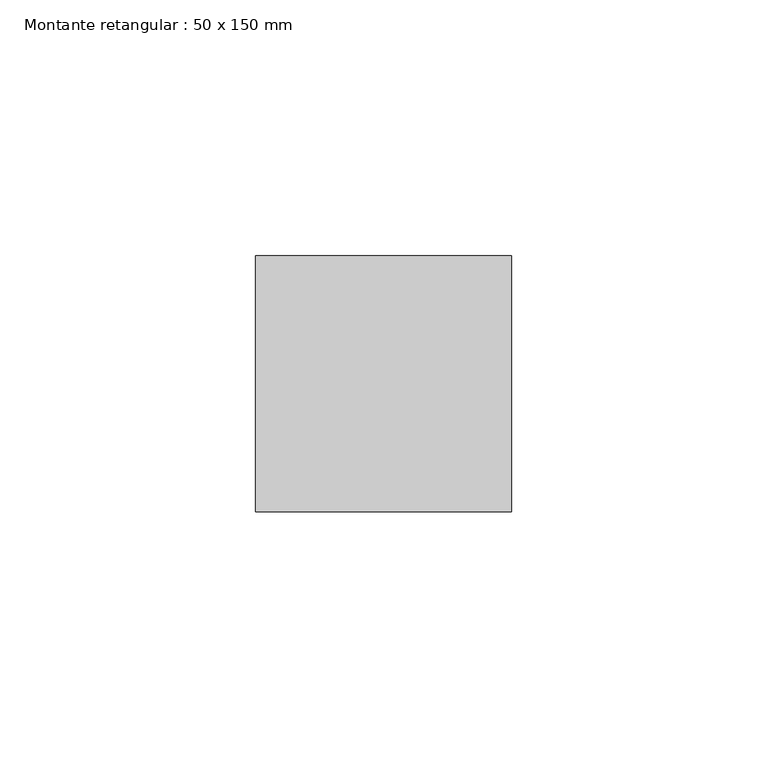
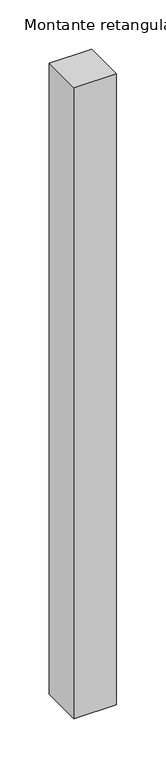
"""IFC4 building model written with IfcOpenShell, lengths in millimetres: member geometry, Montante retangular : 50 x 150 mm."""

from ifc_helpers import new_model, si_unit, frame, origin, place, context, project, spatial, polyline, outline, extrude, source, transform, mapped, element, save


def montante_retangular_50_x_150_mm_d8edc6d5(model_context):
    return source(origin(), model_context, "Body", "SweptSolid", [
        extrude(outline(polyline([(0.0, 25.0), (0.0, -25.0), (-50.0, -25.0), (-50.0, 25.0), (0.0, 25.0)])), frame((0.0, 0.0, -783.3), z_axis=(0.0, 0.0, 1.0), x_axis=(1.0, 0.0, 0.0)), (0.0, 0.0, 1.0), 783.3),
    ])


if __name__ == "__main__":
    model = new_model("IFC4")
    model_context = context("Model", 3, world=origin())
    ifc_project = project(units=[si_unit("LENGTHUNIT", "METRE", prefix="MILLI")], contexts=[model_context])
    site = spatial("IfcSite", under=ifc_project)
    building = spatial("IfcBuilding", under=site)
    placement = place(None, origin())
    montante_retangular_50_x_150_mm_shape = montante_retangular_50_x_150_mm_d8edc6d5(model_context)
    element("IfcMember", 1, ObjectType="Montante retangular : 50 x 150 mm", at=placement, inside=building, context=model_context, shape_type="MappedRepresentation", body=[
        mapped(montante_retangular_50_x_150_mm_shape, transform((0.0, 0.0, 0.0), x_axis=(1.0, 0.0, 0.0), y_axis=(0.0, 1.0, 0.0), z_axis=(0.0, 0.0, 1.0))),
    ])
    save(model, "model.ifc")
